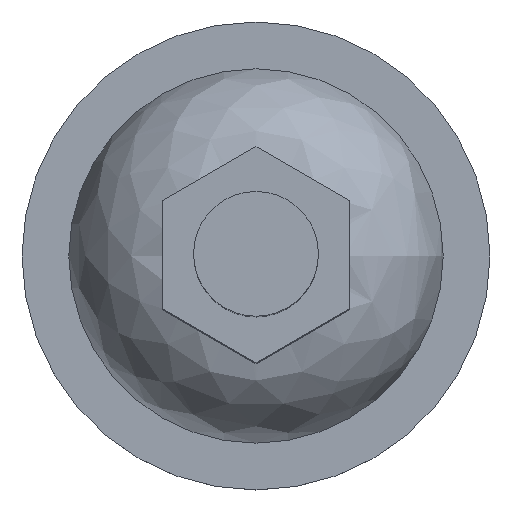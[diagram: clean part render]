
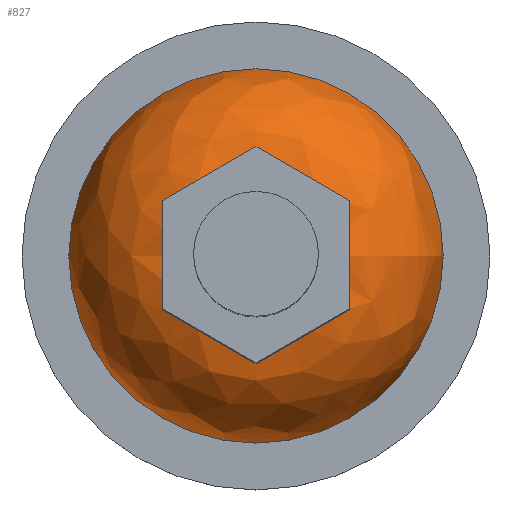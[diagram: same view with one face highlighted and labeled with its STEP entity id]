
A CAD part, top view. The second image highlights one B-rep face of the part: STEP entity #827.
In plain terms, the highlighted free-form (B-spline) face has degree [2, 2] with [5, 9] control points.
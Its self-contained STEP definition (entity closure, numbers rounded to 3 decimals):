
#547=CARTESIAN_POINT('',(8.,0.0,-82.));
#548=VERTEX_POINT('',#547);
#549=CARTESIAN_POINT('',(0.0,0.0,-82.));
#550=DIRECTION('',(0.0,0.0,1.0));
#551=DIRECTION('',(1.0,0.0,0.0));
#552=AXIS2_PLACEMENT_3D('',#549,#550,#551);
#553=CIRCLE('',#552,8.);
#554=EDGE_CURVE('',#548,#548,#553,.T.);
#756=CARTESIAN_POINT('',(24.0,0.0,-98.));
#757=VERTEX_POINT('',#756);
#758=CARTESIAN_POINT('',(0.0,0.0,-98.));
#759=DIRECTION('',(0.0,0.0,1.0));
#760=DIRECTION('',(1.0,0.0,0.0));
#761=AXIS2_PLACEMENT_3D('',#758,#759,#760);
#762=CIRCLE('',#761,24.0);
#763=EDGE_CURVE('',#757,#757,#762,.T.);
#768=CARTESIAN_POINT('',(-24.0,0.,-98.));
#769=CARTESIAN_POINT('',(-24.,0.,-88.762));
#770=CARTESIAN_POINT('',(-16.0,0.,-84.144));
#771=CARTESIAN_POINT('',(-8.,0.,-79.525));
#772=CARTESIAN_POINT('',(0.0,0.,-84.144));
#773=CARTESIAN_POINT('',(-24.,24.,-98.));
#774=CARTESIAN_POINT('',(-24.,24.,-88.762));
#775=CARTESIAN_POINT('',(-16.,16.,-84.144));
#776=CARTESIAN_POINT('',(-8.,8.,-79.525));
#777=CARTESIAN_POINT('',(0.,0.,-84.144));
#778=CARTESIAN_POINT('',(0.,24.0,-98.));
#779=CARTESIAN_POINT('',(0.,24.,-88.762));
#780=CARTESIAN_POINT('',(0.,16.0,-84.144));
#781=CARTESIAN_POINT('',(0.,8.,-79.525));
#782=CARTESIAN_POINT('',(0.,0.0,-84.144));
#783=CARTESIAN_POINT('',(24.,24.,-98.));
#784=CARTESIAN_POINT('',(24.,24.,-88.762));
#785=CARTESIAN_POINT('',(16.,16.,-84.144));
#786=CARTESIAN_POINT('',(8.,8.,-79.525));
#787=CARTESIAN_POINT('',(0.,0.,-84.144));
#788=CARTESIAN_POINT('',(24.0,0.,-98.));
#789=CARTESIAN_POINT('',(24.,0.,-88.762));
#790=CARTESIAN_POINT('',(16.0,0.,-84.144));
#791=CARTESIAN_POINT('',(8.,0.,-79.525));
#792=CARTESIAN_POINT('',(0.0,0.,-84.144));
#793=CARTESIAN_POINT('',(24.,-24.,-98.));
#794=CARTESIAN_POINT('',(24.,-24.,-88.762));
#795=CARTESIAN_POINT('',(16.,-16.,-84.144));
#796=CARTESIAN_POINT('',(8.,-8.,-79.525));
#797=CARTESIAN_POINT('',(0.,0.,-84.144));
#798=CARTESIAN_POINT('',(0.,-24.0,-98.));
#799=CARTESIAN_POINT('',(0.,-24.,-88.762));
#800=CARTESIAN_POINT('',(0.,-16.0,-84.144));
#801=CARTESIAN_POINT('',(0.,-8.,-79.525));
#802=CARTESIAN_POINT('',(0.,0.0,-84.144));
#803=CARTESIAN_POINT('',(-24.,-24.,-98.));
#804=CARTESIAN_POINT('',(-24.,-24.,-88.762));
#805=CARTESIAN_POINT('',(-16.,-16.,-84.144));
#806=CARTESIAN_POINT('',(-8.,-8.,-79.525));
#807=CARTESIAN_POINT('',(0.,0.,-84.144));
#808=CARTESIAN_POINT('',(-24.0,0.,-98.));
#809=CARTESIAN_POINT('',(-24.,0.,-88.762));
#810=CARTESIAN_POINT('',(-16.0,0.,-84.144));
#811=CARTESIAN_POINT('',(-8.,0.,-79.525));
#812=CARTESIAN_POINT('',(0.0,0.,-84.144));
#820=(BOUNDED_SURFACE()B_SPLINE_SURFACE(2,2,((#768,#773,#778,#783,#788,#793,#798,#803,#808),(#769,#774,#779,#784,#789,#794,#799,#804,#809),(#770,#775,#780,#785,#790,#795,#800,#805,#810),(#771,#776,#781,#786,#791,#796,#801,#806,#811),(#772,#777,#782,#787,#792,#797,#802,#807,#812)),.UNSPECIFIED.,.F.,.T.,.U.)B_SPLINE_SURFACE_WITH_KNOTS((3,2,3),(3,2,2,2,3),(0.0,1.047,2.094),(0.0,1.571,3.142,4.712,6.283),.UNSPECIFIED.)GEOMETRIC_REPRESENTATION_ITEM()RATIONAL_B_SPLINE_SURFACE(((1.0,0.707,1.0,0.707,1.0,0.707,1.0,0.707,1.0),(0.866,0.612,0.866,0.612,0.866,0.612,0.866,0.612,0.866),(1.0,0.707,1.0,0.707,1.0,0.707,1.0,0.707,1.0),(0.866,0.612,0.866,0.612,0.866,0.612,0.866,0.612,0.866),(1.0,0.707,1.0,0.707,1.0,0.707,1.0,0.707,1.0)))REPRESENTATION_ITEM('')SURFACE());
#821=ORIENTED_EDGE('',*,*,#554,.F.);
#822=EDGE_LOOP('',(#821));
#823=FACE_OUTER_BOUND('',#822,.T.);
#824=ORIENTED_EDGE('',*,*,#763,.T.);
#825=EDGE_LOOP('',(#824));
#826=FACE_BOUND('',#825,.T.);
#827=ADVANCED_FACE('',(#823,#826),#820,.T.);
